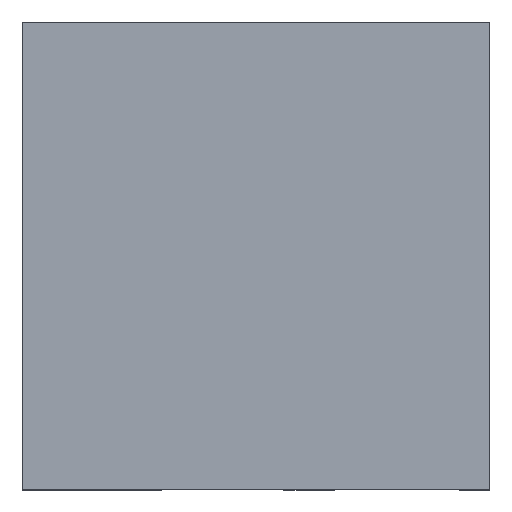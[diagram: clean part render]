
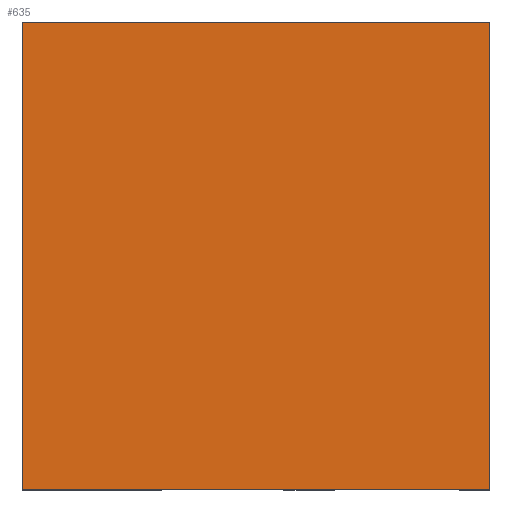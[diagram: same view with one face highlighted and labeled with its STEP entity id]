
A CAD part, top view. The second image highlights one B-rep face of the part: STEP entity #635.
In plain terms, the highlighted planar face has unit normal (0, 0, 1).
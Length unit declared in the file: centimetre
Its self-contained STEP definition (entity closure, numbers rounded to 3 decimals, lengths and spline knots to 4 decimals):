
#25 = VECTOR ( 'NONE', #321, 100. ) ;
#50 = LINE ( 'NONE', #376, #144 ) ;
#107 = VERTEX_POINT ( 'NONE', #836 ) ;
#113 = AXIS2_PLACEMENT_3D ( 'NONE', #217, #295, #763 ) ;
#122 = LINE ( 'NONE', #704, #1009 ) ;
#144 = VECTOR ( 'NONE', #541, 100. ) ;
#217 = CARTESIAN_POINT ( 'NONE',  ( 0., 0., 1000. ) ) ;
#295 = DIRECTION ( 'NONE',  ( 0., 0., 1. ) ) ;
#308 = LINE ( 'NONE', #433, #746 ) ;
#321 = DIRECTION ( 'NONE',  ( 0., -1., 0. ) ) ;
#376 = CARTESIAN_POINT ( 'NONE',  ( 0., 1000., 1000. ) ) ;
#433 = CARTESIAN_POINT ( 'NONE',  ( 0., 0., 1000. ) ) ;
#450 = ORIENTED_EDGE ( 'NONE', *, *, #558, .T. ) ;
#460 = ORIENTED_EDGE ( 'NONE', *, *, #568, .T. ) ;
#474 = CARTESIAN_POINT ( 'NONE',  ( 0., 1000., 1000. ) ) ;
#501 = VERTEX_POINT ( 'NONE', #507 ) ;
#507 = CARTESIAN_POINT ( 'NONE',  ( 1000., 0., 1000. ) ) ;
#541 = DIRECTION ( 'NONE',  ( -1., 0., 0. ) ) ;
#547 = CARTESIAN_POINT ( 'NONE',  ( 0., 1000., 1000. ) ) ;
#558 = EDGE_CURVE ( 'NONE', #607, #107, #1017, .T. ) ;
#560 = ORIENTED_EDGE ( 'NONE', *, *, #562, .T. ) ;
#562 = EDGE_CURVE ( 'NONE', #501, #1021, #122, .T. ) ;
#568 = EDGE_CURVE ( 'NONE', #1021, #607, #50, .T. ) ;
#600 = DIRECTION ( 'NONE',  ( 1., 0., 0. ) ) ;
#607 = VERTEX_POINT ( 'NONE', #474 ) ;
#635 = ADVANCED_FACE ( 'NONE', ( #926 ), #831, .T. ) ;
#641 = EDGE_CURVE ( 'NONE', #107, #501, #308, .T. ) ;
#704 = CARTESIAN_POINT ( 'NONE',  ( 1000., 1000., 1000. ) ) ;
#746 = VECTOR ( 'NONE', #600, 100. ) ;
#763 = DIRECTION ( 'NONE',  ( 1., 0., 0. ) ) ;
#768 = DIRECTION ( 'NONE',  ( 0., 1., 0. ) ) ;
#783 = ORIENTED_EDGE ( 'NONE', *, *, #641, .T. ) ;
#786 = CARTESIAN_POINT ( 'NONE',  ( 1000., 1000., 1000. ) ) ;
#831 = PLANE ( 'NONE',  #113 ) ;
#836 = CARTESIAN_POINT ( 'NONE',  ( 0., 0., 1000. ) ) ;
#838 = EDGE_LOOP ( 'NONE', ( #450, #783, #560, #460 ) ) ;
#926 = FACE_OUTER_BOUND ( 'NONE', #838, .T. ) ;
#1009 = VECTOR ( 'NONE', #768, 100. ) ;
#1017 = LINE ( 'NONE', #547, #25 ) ;
#1021 = VERTEX_POINT ( 'NONE', #786 ) ;
